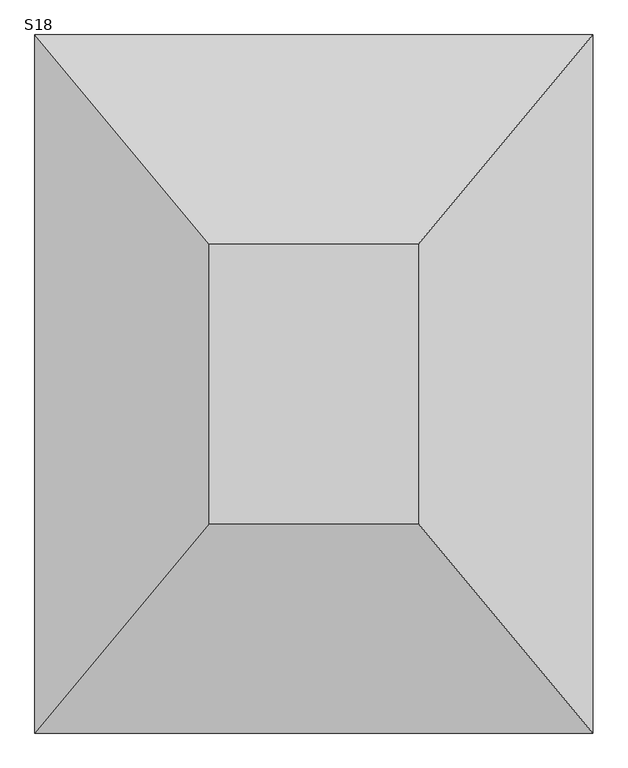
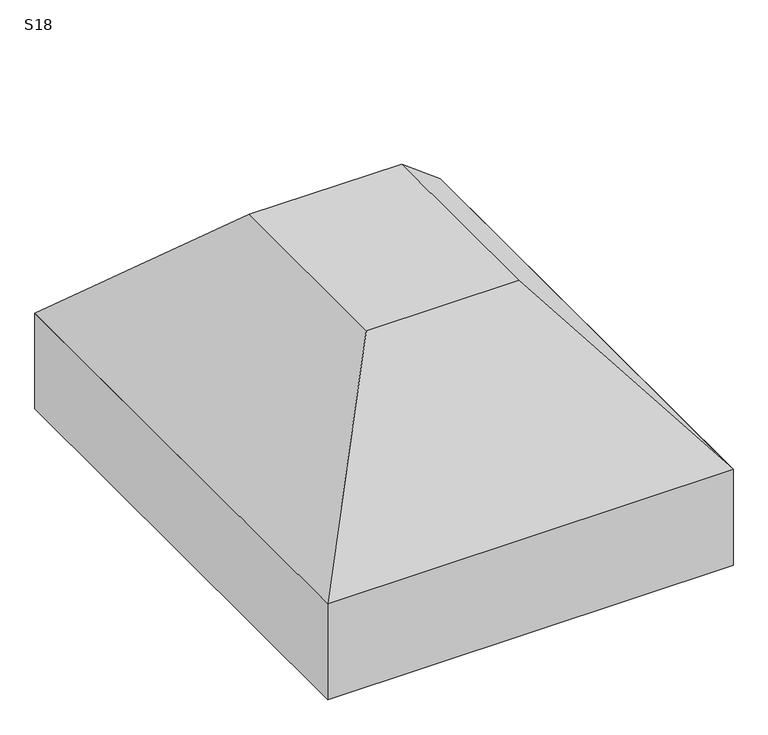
"""IFC4 building model written with IfcOpenShell, lengths in millimetres: fastener geometry, TQS - Sapata : S18."""

from ifc_helpers import new_model, si_unit, frame, origin, place, context, project, spatial, polyline, outline, extrude, faceted_brep, source, transform, mapped, element, save


def s18_a6842c47(model_context):
    return source(origin(), model_context, "Body", "SolidModel", [
        faceted_brep([(-50.0, 0.0, 0.0), (-350.0, 0.0, 0.0), (-350.0, -400.0, 0.0), (-50.0, -400.0, 0.0), (200.0, 300.0, -300.0), (200.0, -700.0, -300.0), (-600.0, -700.0, -300.0), (-600.0, 300.0, -300.0)], [[[0, 1, 2, 3]], [[4, 5, 6, 7]], [[4, 7, 1, 0]], [[7, 6, 2, 1]], [[6, 5, 3, 2]], [[5, 4, 0, 3]]]),
        extrude(outline(polyline([(200.0, 300.0), (200.0, -700.0), (-600.0, -700.0), (-600.0, 300.0), (200.0, 300.0)])), frame((0.0, 0.0, -500.0), z_axis=(0.0, 0.0, 1.0), x_axis=(1.0, 0.0, 0.0)), (0.0, 0.0, 1.0), 200.0),
    ])


if __name__ == "__main__":
    model = new_model("IFC4")
    model_context = context("Model", 3, world=origin())
    ifc_project = project(units=[si_unit("LENGTHUNIT", "METRE", prefix="MILLI")], contexts=[model_context])
    site = spatial("IfcSite", under=ifc_project)
    building = spatial("IfcBuilding", under=site)
    placement = place(None, origin())
    s18_shape = s18_a6842c47(model_context)
    element("IfcFastener", 1, ObjectType="TQS - Sapata : S18", at=placement, inside=building, context=model_context, shape_type="MappedRepresentation", body=[
        mapped(s18_shape, transform((0.0, 0.0, 0.0), x_axis=(1.0, 0.0, 0.0), y_axis=(0.0, 1.0, 0.0), z_axis=(0.0, 0.0, 1.0))),
    ])
    save(model, "model.ifc")
